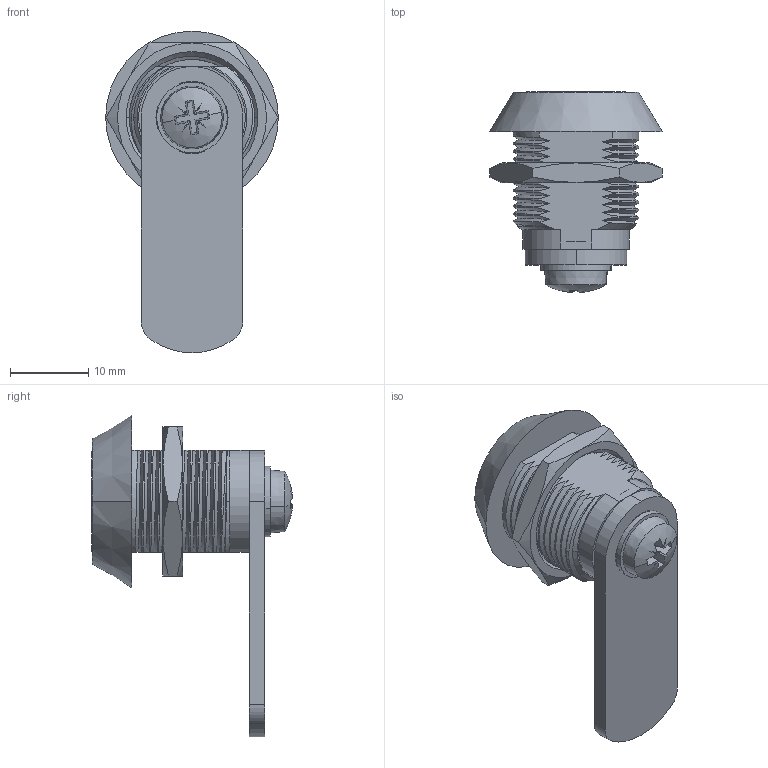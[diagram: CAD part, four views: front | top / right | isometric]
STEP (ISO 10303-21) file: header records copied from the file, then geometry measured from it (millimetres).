
FILE_DESCRIPTION (( 'STEP AP214' ), '1' );
FILE_NAME ('Z-0233.STEP', '2016-09-08T11:11:42', ( '' ), ( '' ), 'SwSTEP 2.0', 'SolidWorks 2015', '' );
FILE_SCHEMA (( 'AUTOMOTIVE_DESIGN' ));
Length unit declared in the file: millimetre
Products named in the file (7): 2.Z0233.001.02_A; 2.Z0233.001.01_A; Z-0233; DIN 125_M4; DIN-7985_M4x6; 2.Z0233.00.03.04_H15; 2.Z0233.001.03_A
Assembly tree (6 placements, depth 2):
  Z-0233
    2.Z0233.001.01_A
    2.Z0233.001.02_A
    2.Z0233.001.03_A
    2.Z0233.00.03.04_H15
    DIN-7985_M4x6
    DIN 125_M4
Bounding box: 22 x 25.6 x 41 mm (x, y, z)
Volume: 4836.8 mm3; surface area: 5500.2 mm2
Topology: 6 solids, 6 shells, 258 faces, 699 edges, 456 vertices
Faces by surface type: plane 89, cylinder 79, bspline 50, cone 32, torus 6, sphere 2
Entity records: 28226 total; most frequent: CARTESIAN_POINT 22019, ORIENTED_EDGE 1394, DIRECTION 1061, EDGE_CURVE 697, VERTEX_POINT 456, AXIS2_PLACEMENT_3D 389, LINE 283, VECTOR 283
